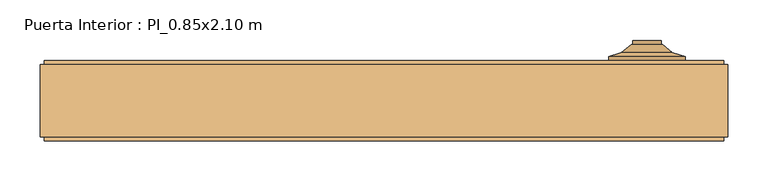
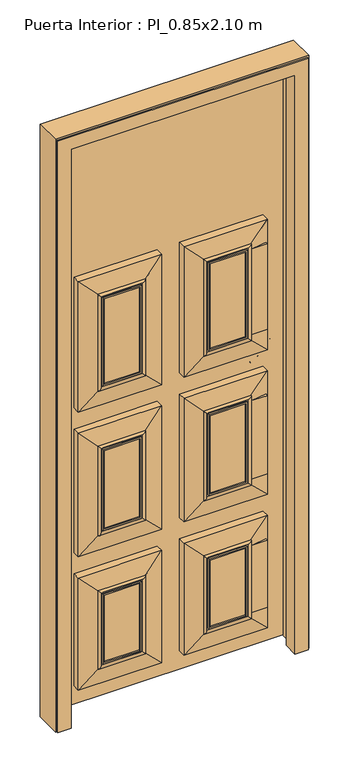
"""IFC4 building model written with IfcOpenShell, lengths in millimetres: door geometry, Puerta Interior : PI_0.85x2.10 m."""

from ifc_helpers import new_model, si_unit, point, frame, frame_2d, origin, place, context, project, spatial, polyline, circle_curve, ellipse_curve, trimmed, segment, composite_curve, outline, extrude, faceted_brep, source, transform, mapped, element, save
from ifc_brep_helpers import plane_surface, cylinder_surface, revolved_surface, advanced_brep


def puerta_interior_pi_0_85x2_10_m_2af04781(model_context):
    return source(origin(), model_context, "Body", "SolidModel", [
        extrude(outline(composite_curve([segment(trimmed(circle_curve(frame_2d((1025.0174632, 325.28125)), 17.5), [point((1025.0174632, 307.78125))], [point((1025.0174632, 342.78125))], False, "CARTESIAN"), True, "CONTINUOUS"), segment(trimmed(circle_curve(frame_2d((1025.0174632, 325.28125)), 17.5), [point((1025.0174632, 342.78125))], [point((1025.0174632, 307.78125))], False, "CARTESIAN"), True, "CONTINUOUS")], self_intersect=False)), frame((0.0, 55.0, 0.0), z_axis=(0.0, 1.0, 0.0), x_axis=(0.0, 0.0, 1.0)), (0.0, 0.0, 1.0), 20.0),
        advanced_brep(
        [(372.78125, 55.0, 1025.0174632), (277.78125, 55.0, 1025.0174632), (277.78125, 50.0, 1025.0174632), (372.78125, 50.0, 1025.0174632), (356.78125, 60.0, 1025.0174632), (293.78125, 60.0, 1025.0174632), (344.9828812, 70.0, 1025.0174632), (305.5796188, 70.0, 1025.0174632), (343.1741787, 70.0, 1025.0174632), (307.3883213, 70.0, 1025.0174632), (343.1741787, 55.0, 1025.0174632), (307.3883213, 55.0, 1025.0174632), (325.28125, 55.0, 1025.0174632), (325.28125, 50.0, 1025.0174632)],
        [
            (0, 1, circle_curve(frame((325.28125, 55.0, 1025.0174632), z_axis=(0.0, -1.0, 0.0), x_axis=(-1.0, 0.0, 0.0)), 47.5)),
            (1, 2),
            (2, 3, circle_curve(frame((325.28125, 50.0, 1025.0174632), z_axis=(0.0, 1.0, 0.0), x_axis=(-1.0, 0.0, 0.0)), 47.5)),
            (3, 0),
            (1, 0, circle_curve(frame((325.28125, 55.0, 1025.0174632), z_axis=(0.0, -1.0, 0.0), x_axis=(-1.0, 0.0, 0.0)), 47.5)),
            (3, 2, circle_curve(frame((325.28125, 50.0, 1025.0174632), z_axis=(0.0, 1.0, 0.0), x_axis=(-1.0, 0.0, 0.0)), 47.5)),
            (4, 5, circle_curve(frame((325.28125, 60.0, 1025.0174632), z_axis=(0.0, -1.0, 0.0), x_axis=(-1.0, 0.0, 0.0)), 31.5)),
            (5, 1),
            (0, 4),
            (5, 4, circle_curve(frame((325.28125, 60.0, 1025.0174632), z_axis=(0.0, -1.0, 0.0), x_axis=(-1.0, 0.0, 0.0)), 31.5)),
            (6, 7, circle_curve(frame((325.28125, 70.0, 1025.0174632), z_axis=(0.0, -1.0, 0.0), x_axis=(-1.0, 0.0, 0.0)), 19.7016312)),
            (7, 5),
            (4, 6),
            (7, 6, circle_curve(frame((325.28125, 70.0, 1025.0174632), z_axis=(0.0, -1.0, 0.0), x_axis=(-1.0, 0.0, 0.0)), 19.7016312)),
            (8, 9, circle_curve(frame((325.28125, 70.0, 1025.0174632), z_axis=(0.0, -1.0, 0.0), x_axis=(-1.0, 0.0, 0.0)), 17.8929287)),
            (9, 7),
            (6, 8),
            (9, 8, circle_curve(frame((325.28125, 70.0, 1025.0174632), z_axis=(0.0, -1.0, 0.0), x_axis=(-1.0, 0.0, 0.0)), 17.8929287)),
            (10, 11, circle_curve(frame((325.28125, 55.0, 1025.0174632), z_axis=(0.0, -1.0, 0.0), x_axis=(-1.0, 0.0, 0.0)), 17.8929287)),
            (11, 9),
            (8, 10),
            (11, 10, circle_curve(frame((325.28125, 55.0, 1025.0174632), z_axis=(0.0, -1.0, 0.0), x_axis=(-1.0, 0.0, 0.0)), 17.8929287)),
            (12, 11),
            (10, 12),
            (2, 13),
            (13, 3),
        ],
        [
            cylinder_surface(frame((325.28125, 50.0, 1025.0174632), z_axis=(0.0, 1.0, 0.0), x_axis=(-1.0, 0.0, 0.0)), 47.5),
            revolved_surface(polyline([(277.78125, 55.0, 1025.0174632), (293.78125, 60.0, 1025.0174632)]), (325.28125, 50.0, 1025.0174632), (0.0, 1.0, 0.0)),
            revolved_surface(polyline([(293.78125, 60.0, 1025.0174632), (305.5796188, 70.0, 1025.0174632)]), (325.28125, 50.0, 1025.0174632), (0.0, 1.0, 0.0)),
            plane_surface(frame((325.28125, 70.0, 1025.0174632), z_axis=(0.0, 1.0, 0.0), x_axis=(-1.0, 0.0, 0.0))),
            revolved_surface(polyline([(307.38832130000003, 70.0, 1025.0174632), (307.38832130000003, 55.0, 1025.0174632)]), (325.28125, 50.0, 1025.0174632), (0.0, 1.0, 0.0)),
            plane_surface(frame((325.28125, 55.0, 1025.0174632), z_axis=(0.0, 1.0, 0.0), x_axis=(-1.0, 0.0, 0.0))),
            plane_surface(frame((325.28125, 50.0, 1025.0174632), z_axis=(0.0, -1.0, 0.0), x_axis=(-1.0, 0.0, 0.0))),
        ],
        [
            (0, [[1, 2, 3, 4]]),
            (0, [[5, -4, 6, -2]]),
            (1, [[7, 8, -1, 9]]),
            (1, [[10, -9, -5, -8]]),
            (2, [[11, 12, -7, 13]]),
            (2, [[14, -13, -10, -12]]),
            (3, [[15, 16, -11, 17]]),
            (3, [[18, -17, -14, -16]]),
            (4, [[19, 20, -15, 21]]),
            (4, [[22, -21, -18, -20]]),
            (5, [[23, -19, 24]]),
            (5, [[-24, -22, -23]]),
            (6, [[-3, 25, 26]]),
            (6, [[-6, -26, -25]]),
        ],
    ),
        faceted_brep([(425.0, 45.0, 0.0), (425.0, -45.0, 0.0), (420.0, -45.0, 0.0), (420.0, -50.0, 0.0), (375.0, -50.0, 0.0), (375.0, 0.0, 0.0), (392.0, 0.0, 0.0), (392.0, 50.0, 0.0), (420.0, 50.0, 0.0), (420.0, 45.0, 0.0), (425.0, 45.0, 2100.0), (425.0, -45.0, 2100.0), (-425.0, -45.0, 2100.0), (-425.0, -45.0, 0.0), (-420.0, -45.0, 0.0), (-420.0, -45.0, 2095.0), (420.0, -45.0, 2095.0), (420.0, -50.0, 2095.0), (-420.0, -50.0, 2095.0), (-420.0, -50.0, 0.0), (-375.0, -50.0, 0.0), (-375.0, -50.0, 2050.0), (375.0, -50.0, 2050.0), (375.0, 0.0, 2050.0), (-375.0, 0.0, 2050.0), (-375.0, 0.0, 0.0), (-392.0, 0.0, 0.0), (-392.0, 0.0, 2067.0), (392.0, 0.0, 2067.0), (392.0, 50.0, 2067.0), (-392.0, 50.0, 2067.0), (-392.0, 50.0, 1950.0), (-394.0, 50.0, 1950.0), (-394.0, 50.0, 1850.0), (-392.0, 50.0, 1850.0), (-392.0, 50.0, 1075.0174632), (-394.0, 50.0, 1075.0174632), (-394.0, 50.0, 975.0174632), (-392.0, 50.0, 975.0174632), (-392.0, 50.0, 200.0349265), (-394.0, 50.0, 200.0349265), (-394.0, 50.0, 100.0349265), (-392.0, 50.0, 100.0349265), (-392.0, 50.0, 0.0), (-420.0, 50.0, 0.0), (-420.0, 50.0, 2095.0), (420.0, 50.0, 2095.0), (420.0, 45.0, 2095.0), (-420.0, 45.0, 2095.0), (-420.0, 45.0, 0.0), (-425.0, 45.0, 0.0), (-425.0, 45.0, 2100.0), (-392.0, 7.5, 100.0349265), (-392.0, 7.5, 200.0349265), (-392.0, 7.5, 975.0174632), (-392.0, 7.5, 1075.0174632), (-392.0, 7.5, 1850.0), (-392.0, 7.5, 1950.0), (-394.0, 7.5, 100.0349265), (-394.0, 7.5, 200.0349265), (-394.0, 7.5, 975.0174632), (-394.0, 7.5, 1075.0174632), (-394.0, 7.5, 1950.0), (-394.0, 7.5, 1850.0)], [[[0, 1, 2, 3, 4, 5, 6, 7, 8, 9]], [[1, 0, 10, 11]], [[2, 1, 11, 12, 13, 14, 15, 16]], [[3, 2, 16, 17]], [[4, 3, 17, 18, 19, 20, 21, 22]], [[5, 4, 22, 23]], [[6, 5, 23, 24, 25, 26, 27, 28]], [[7, 6, 28, 29]], [[8, 7, 29, 30, 31, 32, 33, 34, 35, 36, 37, 38, 39, 40, 41, 42, 43, 44, 45, 46]], [[9, 8, 46, 47]], [[0, 9, 47, 48, 49, 50, 51, 10]], [[13, 50, 49, 44, 43, 26, 25, 20, 19, 14]], [[12, 51, 50, 13]], [[48, 45, 44, 49]], [[30, 27, 26, 43, 42, 52, 53, 39, 38, 54, 55, 35, 34, 56, 57, 31]], [[24, 21, 20, 25]], [[18, 15, 14, 19]], [[58, 52, 42, 41]], [[58, 59, 53, 52]], [[53, 59, 40, 39]], [[60, 54, 38, 37]], [[60, 61, 55, 54]], [[55, 61, 36, 35]], [[61, 60, 37, 36]], [[59, 58, 41, 40]], [[11, 10, 51, 12]], [[23, 22, 21, 24]], [[29, 28, 27, 30]], [[17, 16, 15, 18]], [[47, 46, 45, 48]], [[62, 63, 33, 32]], [[62, 32, 31, 57]], [[63, 62, 57, 56]], [[33, 63, 56, 34]]]),
        extrude(outline(polyline([(392.0, 48.203125), (-392.0, 48.203125), (-392.0, 50.0), (392.0, 50.0), (392.0, 48.203125)])), frame((0.0, 0.0, 2.5), z_axis=(0.0, 0.0, 1.0), x_axis=(1.0, 0.0, 0.0)), (0.0, 0.0, 1.0), 2064.5),
        advanced_brep(
        [(117.5, 0.0, 395.0087316), (117.5, 0.0, 157.5), (237.0, 0.0, 157.5), (237.0, 0.0, 395.0087316), (247.0, 0.0, 405.0087316), (107.5, 0.0, 405.0087316), (107.5, 0.0, 147.5), (247.0, 0.0, 147.5), (242.0, 0.0, 152.5), (112.5, 0.0, 152.5), (112.5, 0.0, 400.0087316), (242.0, 0.0, 400.0087316), (312.0, 0.0, 157.5), (312.0, 0.0, 395.0087316), (257.0, 0.0, 395.0087316), (257.0, 0.0, 157.5), (37.5, 35.0, 77.5), (37.5, 35.0, 475.0087316), (317.0, 35.0, 475.0087316), (317.0, 35.0, 77.5), (117.5, -5.0, 395.0087316), (117.5, -5.0, 157.5), (37.5, 10.0, 475.0087316), (37.5, 10.0, 77.5), (97.5, 0.0, 137.5), (97.5, 0.0, 415.0087316), (112.5, -5.0, 400.0087316), (112.5, -5.0, 152.5), (237.0, -5.0, 157.5), (317.0, 10.0, 77.5), (257.0, 0.0, 137.5), (242.0, -5.0, 152.5), (237.0, -5.0, 395.0087316), (317.0, 10.0, 475.0087316), (257.0, 0.0, 415.0087316), (312.0, 9.1666667, 395.0087316), (312.0, 9.1666667, 157.5), (242.0, -5.0, 400.0087316)],
        [
            (0, 1),
            (1, 2),
            (2, 3),
            (3, 0),
            (4, 5),
            (5, 6),
            (6, 7),
            (7, 4),
            (8, 9),
            (9, 10),
            (10, 11),
            (11, 8),
            (12, 13),
            (13, 14),
            (14, 15),
            (15, 12),
            (16, 17),
            (17, 18),
            (18, 19),
            (19, 16),
            (20, 21),
            (21, 1),
            (0, 20),
            (22, 17),
            (16, 23),
            (23, 22),
            (23, 24),
            (24, 25),
            (25, 22),
            (24, 6, ellipse_curve(frame((102.5, 0.0, 142.5), z_axis=(-0.7071067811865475, 0.0, 0.7071067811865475), x_axis=(0.7071067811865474, 0.0, 0.7071067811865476)), 7.0710678, 5.0)),
            (5, 25, ellipse_curve(frame((102.5, 0.0, 410.0087316), z_axis=(-0.7071067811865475, 0.0, -0.7071067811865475), x_axis=(-0.7071067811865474, 0.0, 0.7071067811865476)), 7.0710678, 5.0)),
            (26, 10),
            (9, 27),
            (27, 26),
            (21, 28),
            (28, 2),
            (19, 29),
            (29, 23),
            (29, 30),
            (30, 24),
            (30, 7, ellipse_curve(frame((252.0, 0.0, 142.5), z_axis=(-0.7071067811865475, 0.0, -0.7071067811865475), x_axis=(-0.7071067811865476, 0.0, 0.7071067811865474)), 7.0710678, 5.0)),
            (8, 31),
            (31, 27),
            (28, 32),
            (32, 3),
            (18, 33),
            (33, 29),
            (33, 34),
            (34, 14),
            (14, 35),
            (35, 36),
            (36, 15),
            (15, 30),
            (34, 4, ellipse_curve(frame((252.0, 0.0, 410.0087316), z_axis=(0.7071067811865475, 0.0, -0.7071067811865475), x_axis=(-0.7071067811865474, 0.0, -0.7071067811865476)), 7.0710678, 5.0)),
            (11, 37),
            (37, 31),
            (32, 20),
            (22, 33),
            (25, 34),
            (26, 37),
            (36, 12),
            (35, 13),
        ],
        [
            plane_surface(frame((117.5, 0.0, 395.0087316), z_axis=(0.0, -1.0, 0.0), x_axis=(0.0, 0.0, -1.0))),
            plane_surface(frame((117.5, 35.0, 395.0087316), z_axis=(0.0, 1.0, 0.0), x_axis=(0.0, 0.0, 1.0))),
            plane_surface(frame((117.5, -5.0, 395.0087316), z_axis=(1.0, 0.0, 0.0), x_axis=(0.0, 0.0, -1.0))),
            plane_surface(frame((37.5, 35.0, 475.0087316), z_axis=(-1.0, 0.0, 0.0), x_axis=(0.0, 0.0, -1.0))),
            plane_surface(frame((37.5, 10.0, 475.0087316), z_axis=(-0.1643989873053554, -0.9863939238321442, 0.0), x_axis=(0.0, 0.0, -1.0))),
            cylinder_surface(frame((102.5, 0.0, 475.0087316), z_axis=(0.0, 0.0, 1.0), x_axis=(0.0, 1.0, 0.0)), 5.0),
            plane_surface(frame((112.5, 0.0, 400.0087316), z_axis=(-1.0, 0.0, 0.0), x_axis=(0.0, 0.0, -1.0))),
            plane_surface(frame((117.5, -5.0, 157.5), z_axis=(0.0, 0.0, 1.0), x_axis=(1.0, 0.0, 0.0))),
            plane_surface(frame((37.5, 35.0, 77.5), z_axis=(0.0, 0.0, -1.0), x_axis=(1.0, 0.0, 0.0))),
            plane_surface(frame((37.5, 10.0, 77.5), z_axis=(0.0, -0.9863939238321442, -0.1643989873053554), x_axis=(1.0, 0.0, 0.0))),
            cylinder_surface(frame((37.5, 0.0, 142.5), z_axis=(-1.0, 0.0, 0.0), x_axis=(0.0, 1.0, 0.0)), 5.0),
            plane_surface(frame((112.5, 0.0, 152.5), z_axis=(0.0, 0.0, -1.0), x_axis=(1.0, 0.0, 0.0))),
            plane_surface(frame((237.0, -5.0, 157.5), z_axis=(-1.0, 0.0, 0.0), x_axis=(0.0, 0.0, 1.0))),
            plane_surface(frame((317.0, 35.0, 77.5), z_axis=(1.0, 0.0, 0.0), x_axis=(0.0, 0.0, 1.0))),
            plane_surface(frame((317.0, 10.0, 77.5), z_axis=(0.1643989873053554, -0.9863939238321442, 0.0), x_axis=(0.0, 0.0, 1.0))),
            cylinder_surface(frame((252.0, 0.0, 77.5), z_axis=(0.0, 0.0, -1.0), x_axis=(0.0, 1.0, 0.0)), 5.0),
            plane_surface(frame((242.0, 0.0, 152.5), z_axis=(1.0, 0.0, 0.0), x_axis=(0.0, 0.0, 1.0))),
            plane_surface(frame((237.0, -5.0, 395.0087316), z_axis=(0.0, 0.0, -1.0), x_axis=(-1.0, 0.0, 0.0))),
            plane_surface(frame((317.0, 35.0, 475.0087316), z_axis=(0.0, 0.0, 1.0), x_axis=(-1.0, 0.0, 0.0))),
            plane_surface(frame((317.0, 10.0, 475.0087316), z_axis=(0.0, -0.9863939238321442, 0.1643989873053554), x_axis=(-1.0, 0.0, 0.0))),
            cylinder_surface(frame((317.0, 0.0, 410.0087316), z_axis=(1.0, 0.0, 0.0), x_axis=(0.0, 1.0, 0.0)), 5.0),
            plane_surface(frame((242.0, 0.0, 400.0087316), z_axis=(0.0, 0.0, 1.0), x_axis=(-1.0, 0.0, 0.0))),
            plane_surface(frame((242.0, -5.0, 400.0087316), z_axis=(0.0, -1.0, 0.0), x_axis=(-1.0, 0.0, 0.0))),
            plane_surface(frame((117.5, 0.0, 157.5), z_axis=(0.0, 0.0, -1.0), x_axis=(0.0, 1.0, 0.0))),
            plane_surface(frame((312.0, 0.0, 157.5), z_axis=(1.0, 0.0, 0.0), x_axis=(0.0, 1.0, 0.0))),
            plane_surface(frame((312.0, 0.0, 395.0087316), z_axis=(0.0, 0.0, 1.0), x_axis=(0.0, 1.0, 0.0))),
        ],
        [
            (0, [[1, 2, 3, 4]]),
            (0, [[5, 6, 7, 8], [9, 10, 11, 12]]),
            (0, [[13, 14, 15, 16]]),
            (1, [[17, 18, 19, 20]]),
            (2, [[21, 22, -1, 23]]),
            (3, [[24, -17, 25, 26]]),
            (4, [[-26, 27, 28, 29]]),
            (5, [[-28, 30, -6, 31]]),
            (6, [[32, -10, 33, 34]]),
            (7, [[35, 36, -2, -22]]),
            (8, [[-25, -20, 37, 38]]),
            (9, [[-27, -38, 39, 40]]),
            (10, [[-30, -40, 41, -7]]),
            (11, [[-33, -9, 42, 43]]),
            (12, [[44, 45, -3, -36]]),
            (13, [[-37, -19, 46, 47]]),
            (14, [[-39, -47, 48, 49, 50, 51, 52, 53]]),
            (15, [[-8, -41, -53, -15, -49, 54]]),
            (16, [[-42, -12, 55, 56]]),
            (17, [[57, -23, -4, -45]]),
            (18, [[-24, 58, -46, -18]]),
            (19, [[-29, 59, -48, -58]]),
            (20, [[-31, -5, -54, -59]]),
            (21, [[-32, 60, -55, -11]]),
            (22, [[-34, -43, -56, -60], [-21, -57, -44, -35]]),
            (23, [[-16, -52, 61]]),
            (24, [[-13, -61, -51, 62]]),
            (25, [[-14, -62, -50]]),
        ],
    ),
        advanced_brep(
        [(-237.0, 0.0, 395.0087316), (-237.0, 0.0, 157.5), (-117.5, 0.0, 157.5), (-117.5, 0.0, 395.0087316), (-317.0, 35.0, 77.5), (-317.0, 35.0, 475.0087316), (-37.5, 35.0, 475.0087316), (-37.5, 35.0, 77.5), (-237.0, -5.0, 395.0087316), (-237.0, -5.0, 157.5), (-317.0, 10.0, 475.0087316), (-317.0, 10.0, 77.5), (-257.0, 0.0, 137.5), (-257.0, 0.0, 415.0087316), (-247.0, 0.0, 147.5), (-247.0, 0.0, 405.0087316), (-242.0, -5.0, 400.0087316), (-242.0, 0.0, 400.0087316), (-242.0, 0.0, 152.5), (-242.0, -5.0, 152.5), (-117.5, -5.0, 157.5), (-37.5, 10.0, 77.5), (-97.5, 0.0, 137.5), (-107.5, 0.0, 147.5), (-112.5, 0.0, 152.5), (-112.5, -5.0, 152.5), (-117.5, -5.0, 395.0087316), (-37.5, 10.0, 475.0087316), (-97.5, 0.0, 415.0087316), (-107.5, 0.0, 405.0087316), (-112.5, 0.0, 400.0087316), (-112.5, -5.0, 400.0087316)],
        [
            (0, 1),
            (1, 2),
            (2, 3),
            (3, 0),
            (4, 5),
            (5, 6),
            (6, 7),
            (7, 4),
            (8, 9),
            (9, 1),
            (0, 8),
            (10, 5),
            (4, 11),
            (11, 10),
            (11, 12),
            (12, 13),
            (13, 10),
            (12, 14, ellipse_curve(frame((-252.0, 0.0, 142.5), z_axis=(-0.7071067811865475, 0.0, 0.7071067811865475), x_axis=(0.7071067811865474, 0.0, 0.7071067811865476)), 7.0710678, 5.0)),
            (14, 15),
            (15, 13, ellipse_curve(frame((-252.0, 0.0, 410.0087316), z_axis=(-0.7071067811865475, 0.0, -0.7071067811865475), x_axis=(-0.7071067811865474, 0.0, 0.7071067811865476)), 7.0710678, 5.0)),
            (16, 17),
            (17, 18),
            (18, 19),
            (19, 16),
            (9, 20),
            (20, 2),
            (7, 21),
            (21, 11),
            (21, 22),
            (22, 12),
            (22, 23, ellipse_curve(frame((-102.5, 0.0, 142.5), z_axis=(-0.7071067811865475, 0.0, -0.7071067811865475), x_axis=(-0.7071067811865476, 0.0, 0.7071067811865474)), 7.0710678, 5.0)),
            (23, 14),
            (18, 24),
            (24, 25),
            (25, 19),
            (20, 26),
            (26, 3),
            (6, 27),
            (27, 21),
            (27, 28),
            (28, 22),
            (28, 29, ellipse_curve(frame((-102.5, 0.0, 410.0087316), z_axis=(0.7071067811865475, 0.0, -0.7071067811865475), x_axis=(-0.7071067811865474, 0.0, -0.7071067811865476)), 7.0710678, 5.0)),
            (29, 23),
            (24, 30),
            (30, 31),
            (31, 25),
            (26, 8),
            (10, 27),
            (13, 28),
            (15, 29),
            (17, 30),
            (16, 31),
        ],
        [
            plane_surface(frame((-237.0, 0.0, 395.0087316), z_axis=(0.0, -1.0, 0.0), x_axis=(0.0, 0.0, -1.0))),
            plane_surface(frame((-237.0, 35.0, 395.0087316), z_axis=(0.0, 1.0, 0.0), x_axis=(0.0, 0.0, 1.0))),
            plane_surface(frame((-237.0, -5.0, 395.0087316), z_axis=(1.0, 0.0, 0.0), x_axis=(0.0, 0.0, -1.0))),
            plane_surface(frame((-317.0, 35.0, 475.0087316), z_axis=(-1.0, 0.0, 0.0), x_axis=(0.0, 0.0, -1.0))),
            plane_surface(frame((-317.0, 10.0, 475.0087316), z_axis=(-0.1643989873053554, -0.9863939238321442, 0.0), x_axis=(0.0, 0.0, -1.0))),
            cylinder_surface(frame((-252.0, 0.0, 475.0087316), z_axis=(0.0, 0.0, 1.0), x_axis=(0.0, 1.0, 0.0)), 5.0),
            plane_surface(frame((-242.0, 0.0, 400.0087316), z_axis=(-1.0, 0.0, 0.0), x_axis=(0.0, 0.0, -1.0))),
            plane_surface(frame((-237.0, -5.0, 157.5), z_axis=(0.0, 0.0, 1.0), x_axis=(1.0, 0.0, 0.0))),
            plane_surface(frame((-317.0, 35.0, 77.5), z_axis=(0.0, 0.0, -1.0), x_axis=(1.0, 0.0, 0.0))),
            plane_surface(frame((-317.0, 10.0, 77.5), z_axis=(0.0, -0.9863939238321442, -0.1643989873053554), x_axis=(1.0, 0.0, 0.0))),
            cylinder_surface(frame((-317.0, 0.0, 142.5), z_axis=(-1.0, 0.0, 0.0), x_axis=(0.0, 1.0, 0.0)), 5.0),
            plane_surface(frame((-242.0, 0.0, 152.5), z_axis=(0.0, 0.0, -1.0), x_axis=(1.0, 0.0, 0.0))),
            plane_surface(frame((-117.5, -5.0, 157.5), z_axis=(-1.0, 0.0, 0.0), x_axis=(0.0, 0.0, 1.0))),
            plane_surface(frame((-37.5, 35.0, 77.5), z_axis=(1.0, 0.0, 0.0), x_axis=(0.0, 0.0, 1.0))),
            plane_surface(frame((-37.5, 10.0, 77.5), z_axis=(0.1643989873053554, -0.9863939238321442, 0.0), x_axis=(0.0, 0.0, 1.0))),
            cylinder_surface(frame((-102.5, 0.0, 77.5), z_axis=(0.0, 0.0, -1.0), x_axis=(0.0, 1.0, 0.0)), 5.0),
            plane_surface(frame((-112.5, 0.0, 152.5), z_axis=(1.0, 0.0, 0.0), x_axis=(0.0, 0.0, 1.0))),
            plane_surface(frame((-117.5, -5.0, 395.0087316), z_axis=(0.0, 0.0, -1.0), x_axis=(-1.0, 0.0, 0.0))),
            plane_surface(frame((-37.5, 35.0, 475.0087316), z_axis=(0.0, 0.0, 1.0), x_axis=(-1.0, 0.0, 0.0))),
            plane_surface(frame((-37.5, 10.0, 475.0087316), z_axis=(0.0, -0.9863939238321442, 0.1643989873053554), x_axis=(-1.0, 0.0, 0.0))),
            cylinder_surface(frame((-37.5, 0.0, 410.0087316), z_axis=(1.0, 0.0, 0.0), x_axis=(0.0, 1.0, 0.0)), 5.0),
            plane_surface(frame((-107.5, 0.0, 405.0087316), z_axis=(0.0, -1.0, 0.0), x_axis=(-1.0, 0.0, 0.0))),
            plane_surface(frame((-112.5, 0.0, 400.0087316), z_axis=(0.0, 0.0, 1.0), x_axis=(-1.0, 0.0, 0.0))),
            plane_surface(frame((-112.5, -5.0, 400.0087316), z_axis=(0.0, -1.0, 0.0), x_axis=(-1.0, 0.0, 0.0))),
        ],
        [
            (0, [[1, 2, 3, 4]]),
            (1, [[5, 6, 7, 8]]),
            (2, [[9, 10, -1, 11]]),
            (3, [[12, -5, 13, 14]]),
            (4, [[-14, 15, 16, 17]]),
            (5, [[-16, 18, 19, 20]]),
            (6, [[21, 22, 23, 24]]),
            (7, [[25, 26, -2, -10]]),
            (8, [[-13, -8, 27, 28]]),
            (9, [[-15, -28, 29, 30]]),
            (10, [[-18, -30, 31, 32]]),
            (11, [[-23, 33, 34, 35]]),
            (12, [[36, 37, -3, -26]]),
            (13, [[-27, -7, 38, 39]]),
            (14, [[-29, -39, 40, 41]]),
            (15, [[-31, -41, 42, 43]]),
            (16, [[-34, 44, 45, 46]]),
            (17, [[47, -11, -4, -37]]),
            (18, [[-12, 48, -38, -6]]),
            (19, [[-17, 49, -40, -48]]),
            (20, [[-20, 50, -42, -49]]),
            (21, [[-19, -32, -43, -50], [-22, 51, -44, -33]]),
            (22, [[-21, 52, -45, -51]]),
            (23, [[-24, -35, -46, -52], [-9, -47, -36, -25]]),
        ],
    ),
        advanced_brep(
        [(-237.0, 0.0, 907.5174632), (-237.0, 0.0, 630.0087316), (-117.5, 0.0, 630.0087316), (-117.5, 0.0, 907.5174632), (-317.0, 35.0, 550.0087316), (-317.0, 35.0, 987.5174632), (-37.5, 35.0, 987.5174632), (-37.5, 35.0, 550.0087316), (-237.0, -5.0, 907.5174632), (-237.0, -5.0, 630.0087316), (-317.0, 10.0, 987.5174632), (-317.0, 10.0, 550.0087316), (-257.0, 0.0, 610.0087316), (-257.0, 0.0, 927.5174632), (-247.0, 0.0, 620.0087316), (-247.0, 0.0, 917.5174632), (-242.0, -5.0, 912.5174632), (-242.0, 0.0, 912.5174632), (-242.0, 0.0, 625.0087316), (-242.0, -5.0, 625.0087316), (-117.5, -5.0, 630.0087316), (-37.5, 10.0, 550.0087316), (-97.5, 0.0, 610.0087316), (-107.5, 0.0, 620.0087316), (-112.5, 0.0, 625.0087316), (-112.5, -5.0, 625.0087316), (-117.5, -5.0, 907.5174632), (-37.5, 10.0, 987.5174632), (-97.5, 0.0, 927.5174632), (-107.5, 0.0, 917.5174632), (-112.5, 0.0, 912.5174632), (-112.5, -5.0, 912.5174632)],
        [
            (0, 1),
            (1, 2),
            (2, 3),
            (3, 0),
            (4, 5),
            (5, 6),
            (6, 7),
            (7, 4),
            (8, 9),
            (9, 1),
            (0, 8),
            (10, 5),
            (4, 11),
            (11, 10),
            (11, 12),
            (12, 13),
            (13, 10),
            (12, 14, ellipse_curve(frame((-252.0, 0.0, 615.0087316), z_axis=(-0.7071067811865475, 0.0, 0.7071067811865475), x_axis=(0.7071067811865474, 0.0, 0.7071067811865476)), 7.0710678, 5.0)),
            (14, 15),
            (15, 13, ellipse_curve(frame((-252.0, 0.0, 922.5174632), z_axis=(-0.7071067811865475, 0.0, -0.7071067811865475), x_axis=(-0.7071067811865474, 0.0, 0.7071067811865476)), 7.0710678, 5.0)),
            (16, 17),
            (17, 18),
            (18, 19),
            (19, 16),
            (9, 20),
            (20, 2),
            (7, 21),
            (21, 11),
            (21, 22),
            (22, 12),
            (22, 23, ellipse_curve(frame((-102.5, 0.0, 615.0087316), z_axis=(-0.7071067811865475, 0.0, -0.7071067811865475), x_axis=(-0.7071067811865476, 0.0, 0.7071067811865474)), 7.0710678, 5.0)),
            (23, 14),
            (18, 24),
            (24, 25),
            (25, 19),
            (20, 26),
            (26, 3),
            (6, 27),
            (27, 21),
            (27, 28),
            (28, 22),
            (28, 29, ellipse_curve(frame((-102.5, 0.0, 922.5174632), z_axis=(0.7071067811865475, 0.0, -0.7071067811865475), x_axis=(-0.7071067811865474, 0.0, -0.7071067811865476)), 7.0710678, 5.0)),
            (29, 23),
            (24, 30),
            (30, 31),
            (31, 25),
            (26, 8),
            (10, 27),
            (13, 28),
            (15, 29),
            (17, 30),
            (16, 31),
        ],
        [
            plane_surface(frame((-237.0, 0.0, 907.5174632), z_axis=(0.0, -1.0, 0.0), x_axis=(0.0, 0.0, -1.0))),
            plane_surface(frame((-237.0, 35.0, 907.5174632), z_axis=(0.0, 1.0, 0.0), x_axis=(0.0, 0.0, 1.0))),
            plane_surface(frame((-237.0, -5.0, 907.5174632), z_axis=(1.0, 0.0, 0.0), x_axis=(0.0, 0.0, -1.0))),
            plane_surface(frame((-317.0, 35.0, 987.5174632), z_axis=(-1.0, 0.0, 0.0), x_axis=(0.0, 0.0, -1.0))),
            plane_surface(frame((-317.0, 10.0, 987.5174632), z_axis=(-0.1643989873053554, -0.9863939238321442, 0.0), x_axis=(0.0, 0.0, -1.0))),
            cylinder_surface(frame((-252.0, 0.0, 987.5174632), z_axis=(0.0, 0.0, 1.0), x_axis=(0.0, 1.0, 0.0)), 5.0),
            plane_surface(frame((-242.0, 0.0, 912.5174632), z_axis=(-1.0, 0.0, 0.0), x_axis=(0.0, 0.0, -1.0))),
            plane_surface(frame((-237.0, -5.0, 630.0087316), z_axis=(0.0, 0.0, 1.0), x_axis=(1.0, 0.0, 0.0))),
            plane_surface(frame((-317.0, 35.0, 550.0087316), z_axis=(0.0, 0.0, -1.0), x_axis=(1.0, 0.0, 0.0))),
            plane_surface(frame((-317.0, 10.0, 550.0087316), z_axis=(0.0, -0.9863939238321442, -0.1643989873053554), x_axis=(1.0, 0.0, 0.0))),
            cylinder_surface(frame((-317.0, 0.0, 615.0087316), z_axis=(-1.0, 0.0, 0.0), x_axis=(0.0, 1.0, 0.0)), 5.0),
            plane_surface(frame((-242.0, 0.0, 625.0087316), z_axis=(0.0, 0.0, -1.0), x_axis=(1.0, 0.0, 0.0))),
            plane_surface(frame((-117.5, -5.0, 630.0087316), z_axis=(-1.0, 0.0, 0.0), x_axis=(0.0, 0.0, 1.0))),
            plane_surface(frame((-37.5, 35.0, 550.0087316), z_axis=(1.0, 0.0, 0.0), x_axis=(0.0, 0.0, 1.0))),
            plane_surface(frame((-37.5, 10.0, 550.0087316), z_axis=(0.1643989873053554, -0.9863939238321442, 0.0), x_axis=(0.0, 0.0, 1.0))),
            cylinder_surface(frame((-102.5, 0.0, 550.0087316), z_axis=(0.0, 0.0, -1.0), x_axis=(0.0, 1.0, 0.0)), 5.0),
            plane_surface(frame((-112.5, 0.0, 625.0087316), z_axis=(1.0, 0.0, 0.0), x_axis=(0.0, 0.0, 1.0))),
            plane_surface(frame((-117.5, -5.0, 907.5174632), z_axis=(0.0, 0.0, -1.0), x_axis=(-1.0, 0.0, 0.0))),
            plane_surface(frame((-37.5, 35.0, 987.5174632), z_axis=(0.0, 0.0, 1.0), x_axis=(-1.0, 0.0, 0.0))),
            plane_surface(frame((-37.5, 10.0, 987.5174632), z_axis=(0.0, -0.9863939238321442, 0.1643989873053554), x_axis=(-1.0, 0.0, 0.0))),
            cylinder_surface(frame((-37.5, 0.0, 922.5174632), z_axis=(1.0, 0.0, 0.0), x_axis=(0.0, 1.0, 0.0)), 5.0),
            plane_surface(frame((-107.5, 0.0, 917.5174632), z_axis=(0.0, -1.0, 0.0), x_axis=(-1.0, 0.0, 0.0))),
            plane_surface(frame((-112.5, 0.0, 912.5174632), z_axis=(0.0, 0.0, 1.0), x_axis=(-1.0, 0.0, 0.0))),
            plane_surface(frame((-112.5, -5.0, 912.5174632), z_axis=(0.0, -1.0, 0.0), x_axis=(-1.0, 0.0, 0.0))),
        ],
        [
            (0, [[1, 2, 3, 4]]),
            (1, [[5, 6, 7, 8]]),
            (2, [[9, 10, -1, 11]]),
            (3, [[12, -5, 13, 14]]),
            (4, [[-14, 15, 16, 17]]),
            (5, [[-16, 18, 19, 20]]),
            (6, [[21, 22, 23, 24]]),
            (7, [[25, 26, -2, -10]]),
            (8, [[-13, -8, 27, 28]]),
            (9, [[-15, -28, 29, 30]]),
            (10, [[-18, -30, 31, 32]]),
            (11, [[-23, 33, 34, 35]]),
            (12, [[36, 37, -3, -26]]),
            (13, [[-27, -7, 38, 39]]),
            (14, [[-29, -39, 40, 41]]),
            (15, [[-31, -41, 42, 43]]),
            (16, [[-34, 44, 45, 46]]),
            (17, [[47, -11, -4, -37]]),
            (18, [[-12, 48, -38, -6]]),
            (19, [[-17, 49, -40, -48]]),
            (20, [[-20, 50, -42, -49]]),
            (21, [[-19, -32, -43, -50], [-22, 51, -44, -33]]),
            (22, [[-21, 52, -45, -51]]),
            (23, [[-24, -35, -46, -52], [-9, -47, -36, -25]]),
        ],
    ),
        advanced_brep(
        [(117.5, 0.0, 907.5174632), (117.5, 0.0, 630.0087316), (237.0, 0.0, 630.0087316), (237.0, 0.0, 907.5174632), (247.0, 0.0, 917.5174632), (107.5, 0.0, 917.5174632), (107.5, 0.0, 620.0087316), (247.0, 0.0, 620.0087316), (242.0, 0.0, 625.0087316), (112.5, 0.0, 625.0087316), (112.5, 0.0, 912.5174632), (242.0, 0.0, 912.5174632), (312.0, 0.0, 630.0087316), (312.0, 0.0, 907.5174632), (257.0, 0.0, 907.5174632), (257.0, 0.0, 630.0087316), (37.5, 35.0, 550.0087316), (37.5, 35.0, 987.5174632), (317.0, 35.0, 987.5174632), (317.0, 35.0, 550.0087316), (117.5, -5.0, 907.5174632), (117.5, -5.0, 630.0087316), (37.5, 10.0, 987.5174632), (37.5, 10.0, 550.0087316), (97.5, 0.0, 610.0087316), (97.5, 0.0, 927.5174632), (112.5, -5.0, 912.5174632), (112.5, -5.0, 625.0087316), (237.0, -5.0, 630.0087316), (317.0, 10.0, 550.0087316), (257.0, 0.0, 610.0087316), (242.0, -5.0, 625.0087316), (237.0, -5.0, 907.5174632), (317.0, 10.0, 987.5174632), (257.0, 0.0, 927.5174632), (312.0, 9.1666667, 907.5174632), (312.0, 9.1666667, 630.0087316), (242.0, -5.0, 912.5174632)],
        [
            (0, 1),
            (1, 2),
            (2, 3),
            (3, 0),
            (4, 5),
            (5, 6),
            (6, 7),
            (7, 4),
            (8, 9),
            (9, 10),
            (10, 11),
            (11, 8),
            (12, 13),
            (13, 14),
            (14, 15),
            (15, 12),
            (16, 17),
            (17, 18),
            (18, 19),
            (19, 16),
            (20, 21),
            (21, 1),
            (0, 20),
            (22, 17),
            (16, 23),
            (23, 22),
            (23, 24),
            (24, 25),
            (25, 22),
            (24, 6, ellipse_curve(frame((102.5, 0.0, 615.0087316), z_axis=(-0.7071067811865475, 0.0, 0.7071067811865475), x_axis=(0.7071067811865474, 0.0, 0.7071067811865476)), 7.0710678, 5.0)),
            (5, 25, ellipse_curve(frame((102.5, 0.0, 922.5174632), z_axis=(-0.7071067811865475, 0.0, -0.7071067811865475), x_axis=(-0.7071067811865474, 0.0, 0.7071067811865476)), 7.0710678, 5.0)),
            (26, 10),
            (9, 27),
            (27, 26),
            (21, 28),
            (28, 2),
            (19, 29),
            (29, 23),
            (29, 30),
            (30, 24),
            (30, 7, ellipse_curve(frame((252.0, 0.0, 615.0087316), z_axis=(-0.7071067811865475, 0.0, -0.7071067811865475), x_axis=(-0.7071067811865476, 0.0, 0.7071067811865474)), 7.0710678, 5.0)),
            (8, 31),
            (31, 27),
            (28, 32),
            (32, 3),
            (18, 33),
            (33, 29),
            (33, 34),
            (34, 14),
            (14, 35),
            (35, 36),
            (36, 15),
            (15, 30),
            (34, 4, ellipse_curve(frame((252.0, 0.0, 922.5174632), z_axis=(0.7071067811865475, 0.0, -0.7071067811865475), x_axis=(-0.7071067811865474, 0.0, -0.7071067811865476)), 7.0710678, 5.0)),
            (11, 37),
            (37, 31),
            (32, 20),
            (22, 33),
            (25, 34),
            (26, 37),
            (36, 12),
            (35, 13),
        ],
        [
            plane_surface(frame((117.5, 0.0, 907.5174632), z_axis=(0.0, -1.0, 0.0), x_axis=(0.0, 0.0, -1.0))),
            plane_surface(frame((117.5, 35.0, 907.5174632), z_axis=(0.0, 1.0, 0.0), x_axis=(0.0, 0.0, 1.0))),
            plane_surface(frame((117.5, -5.0, 907.5174632), z_axis=(1.0, 0.0, 0.0), x_axis=(0.0, 0.0, -1.0))),
            plane_surface(frame((37.5, 35.0, 987.5174632), z_axis=(-1.0, 0.0, 0.0), x_axis=(0.0, 0.0, -1.0))),
            plane_surface(frame((37.5, 10.0, 987.5174632), z_axis=(-0.1643989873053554, -0.9863939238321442, 0.0), x_axis=(0.0, 0.0, -1.0))),
            cylinder_surface(frame((102.5, 0.0, 987.5174632), z_axis=(0.0, 0.0, 1.0), x_axis=(0.0, 1.0, 0.0)), 5.0),
            plane_surface(frame((112.5, 0.0, 912.5174632), z_axis=(-1.0, 0.0, 0.0), x_axis=(0.0, 0.0, -1.0))),
            plane_surface(frame((117.5, -5.0, 630.0087316), z_axis=(0.0, 0.0, 1.0), x_axis=(1.0, 0.0, 0.0))),
            plane_surface(frame((37.5, 35.0, 550.0087316), z_axis=(0.0, 0.0, -1.0), x_axis=(1.0, 0.0, 0.0))),
            plane_surface(frame((37.5, 10.0, 550.0087316), z_axis=(0.0, -0.9863939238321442, -0.1643989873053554), x_axis=(1.0, 0.0, 0.0))),
            cylinder_surface(frame((37.5, 0.0, 615.0087316), z_axis=(-1.0, 0.0, 0.0), x_axis=(0.0, 1.0, 0.0)), 5.0),
            plane_surface(frame((112.5, 0.0, 625.0087316), z_axis=(0.0, 0.0, -1.0), x_axis=(1.0, 0.0, 0.0))),
            plane_surface(frame((237.0, -5.0, 630.0087316), z_axis=(-1.0, 0.0, 0.0), x_axis=(0.0, 0.0, 1.0))),
            plane_surface(frame((317.0, 35.0, 550.0087316), z_axis=(1.0, 0.0, 0.0), x_axis=(0.0, 0.0, 1.0))),
            plane_surface(frame((317.0, 10.0, 550.0087316), z_axis=(0.1643989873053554, -0.9863939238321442, 0.0), x_axis=(0.0, 0.0, 1.0))),
            cylinder_surface(frame((252.0, 0.0, 550.0087316), z_axis=(0.0, 0.0, -1.0), x_axis=(0.0, 1.0, 0.0)), 5.0),
            plane_surface(frame((242.0, 0.0, 625.0087316), z_axis=(1.0, 0.0, 0.0), x_axis=(0.0, 0.0, 1.0))),
            plane_surface(frame((237.0, -5.0, 907.5174632), z_axis=(0.0, 0.0, -1.0), x_axis=(-1.0, 0.0, 0.0))),
            plane_surface(frame((317.0, 35.0, 987.5174632), z_axis=(0.0, 0.0, 1.0), x_axis=(-1.0, 0.0, 0.0))),
            plane_surface(frame((317.0, 10.0, 987.5174632), z_axis=(0.0, -0.9863939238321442, 0.1643989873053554), x_axis=(-1.0, 0.0, 0.0))),
            cylinder_surface(frame((317.0, 0.0, 922.5174632), z_axis=(1.0, 0.0, 0.0), x_axis=(0.0, 1.0, 0.0)), 5.0),
            plane_surface(frame((242.0, 0.0, 912.5174632), z_axis=(0.0, 0.0, 1.0), x_axis=(-1.0, 0.0, 0.0))),
            plane_surface(frame((242.0, -5.0, 912.5174632), z_axis=(0.0, -1.0, 0.0), x_axis=(-1.0, 0.0, 0.0))),
            plane_surface(frame((117.5, 0.0, 630.0087316), z_axis=(0.0, 0.0, -1.0), x_axis=(0.0, 1.0, 0.0))),
            plane_surface(frame((312.0, 0.0, 630.0087316), z_axis=(1.0, 0.0, 0.0), x_axis=(0.0, 1.0, 0.0))),
            plane_surface(frame((312.0, 0.0, 907.5174632), z_axis=(0.0, 0.0, 1.0), x_axis=(0.0, 1.0, 0.0))),
        ],
        [
            (0, [[1, 2, 3, 4]]),
            (0, [[5, 6, 7, 8], [9, 10, 11, 12]]),
            (0, [[13, 14, 15, 16]]),
            (1, [[17, 18, 19, 20]]),
            (2, [[21, 22, -1, 23]]),
            (3, [[24, -17, 25, 26]]),
            (4, [[-26, 27, 28, 29]]),
            (5, [[-28, 30, -6, 31]]),
            (6, [[32, -10, 33, 34]]),
            (7, [[35, 36, -2, -22]]),
            (8, [[-25, -20, 37, 38]]),
            (9, [[-27, -38, 39, 40]]),
            (10, [[-30, -40, 41, -7]]),
            (11, [[-33, -9, 42, 43]]),
            (12, [[44, 45, -3, -36]]),
            (13, [[-37, -19, 46, 47]]),
            (14, [[-39, -47, 48, 49, 50, 51, 52, 53]]),
            (15, [[-8, -41, -53, -15, -49, 54]]),
            (16, [[-42, -12, 55, 56]]),
            (17, [[57, -23, -4, -45]]),
            (18, [[-24, 58, -46, -18]]),
            (19, [[-29, 59, -48, -58]]),
            (20, [[-31, -5, -54, -59]]),
            (21, [[-32, 60, -55, -11]]),
            (22, [[-34, -43, -56, -60], [-21, -57, -44, -35]]),
            (23, [[-16, -52, 61]]),
            (24, [[-13, -61, -51, 62]]),
            (25, [[-14, -62, -50]]),
        ],
    ),
        advanced_brep(
        [(117.5, 0.0, 1445.0087316), (117.5, 0.0, 1142.5174632), (237.0, 0.0, 1142.5174632), (237.0, 0.0, 1445.0087316), (247.0, 0.0, 1455.0087316), (107.5, 0.0, 1455.0087316), (107.5, 0.0, 1132.5174632), (247.0, 0.0, 1132.5174632), (242.0, 0.0, 1137.5174632), (112.5, 0.0, 1137.5174632), (112.5, 0.0, 1450.0087316), (242.0, 0.0, 1450.0087316), (312.0, 0.0, 1142.5174632), (312.0, 0.0, 1445.0087316), (257.0, 0.0, 1445.0087316), (257.0, 0.0, 1142.5174632), (37.5, 35.0, 1062.5174632), (37.5, 35.0, 1525.0087316), (317.0, 35.0, 1525.0087316), (317.0, 35.0, 1062.5174632), (117.5, -5.0, 1445.0087316), (117.5, -5.0, 1142.5174632), (37.5, 10.0, 1525.0087316), (37.5, 10.0, 1062.5174632), (97.5, 0.0, 1122.5174632), (97.5, 0.0, 1465.0087316), (112.5, -5.0, 1450.0087316), (112.5, -5.0, 1137.5174632), (237.0, -5.0, 1142.5174632), (317.0, 10.0, 1062.5174632), (257.0, 0.0, 1122.5174632), (242.0, -5.0, 1137.5174632), (237.0, -5.0, 1445.0087316), (317.0, 10.0, 1525.0087316), (257.0, 0.0, 1465.0087316), (312.0, 9.1666667, 1445.0087316), (312.0, 9.1666667, 1142.5174632), (242.0, -5.0, 1450.0087316)],
        [
            (0, 1),
            (1, 2),
            (2, 3),
            (3, 0),
            (4, 5),
            (5, 6),
            (6, 7),
            (7, 4),
            (8, 9),
            (9, 10),
            (10, 11),
            (11, 8),
            (12, 13),
            (13, 14),
            (14, 15),
            (15, 12),
            (16, 17),
            (17, 18),
            (18, 19),
            (19, 16),
            (20, 21),
            (21, 1),
            (0, 20),
            (22, 17),
            (16, 23),
            (23, 22),
            (23, 24),
            (24, 25),
            (25, 22),
            (24, 6, ellipse_curve(frame((102.5, 0.0, 1127.5174632), z_axis=(-0.7071067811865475, 0.0, 0.7071067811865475), x_axis=(0.7071067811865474, 0.0, 0.7071067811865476)), 7.0710678, 5.0)),
            (5, 25, ellipse_curve(frame((102.5, 0.0, 1460.0087316), z_axis=(-0.7071067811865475, 0.0, -0.7071067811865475), x_axis=(-0.7071067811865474, 0.0, 0.7071067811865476)), 7.0710678, 5.0)),
            (26, 10),
            (9, 27),
            (27, 26),
            (21, 28),
            (28, 2),
            (19, 29),
            (29, 23),
            (29, 30),
            (30, 24),
            (30, 7, ellipse_curve(frame((252.0, 0.0, 1127.5174632), z_axis=(-0.7071067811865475, 0.0, -0.7071067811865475), x_axis=(-0.7071067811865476, 0.0, 0.7071067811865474)), 7.0710678, 5.0)),
            (8, 31),
            (31, 27),
            (28, 32),
            (32, 3),
            (18, 33),
            (33, 29),
            (33, 34),
            (34, 14),
            (14, 35),
            (35, 36),
            (36, 15),
            (15, 30),
            (34, 4, ellipse_curve(frame((252.0, 0.0, 1460.0087316), z_axis=(0.7071067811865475, 0.0, -0.7071067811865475), x_axis=(-0.7071067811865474, 0.0, -0.7071067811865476)), 7.0710678, 5.0)),
            (11, 37),
            (37, 31),
            (32, 20),
            (22, 33),
            (25, 34),
            (26, 37),
            (36, 12),
            (35, 13),
        ],
        [
            plane_surface(frame((117.5, 0.0, 1445.0087316), z_axis=(0.0, -1.0, 0.0), x_axis=(0.0, 0.0, -1.0))),
            plane_surface(frame((117.5, 35.0, 1445.0087316), z_axis=(0.0, 1.0, 0.0), x_axis=(0.0, 0.0, 1.0))),
            plane_surface(frame((117.5, -5.0, 1445.0087316), z_axis=(1.0, 0.0, 0.0), x_axis=(0.0, 0.0, -1.0))),
            plane_surface(frame((37.5, 35.0, 1525.0087316), z_axis=(-1.0, 0.0, 0.0), x_axis=(0.0, 0.0, -1.0))),
            plane_surface(frame((37.5, 10.0, 1525.0087316), z_axis=(-0.1643989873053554, -0.9863939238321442, 0.0), x_axis=(0.0, 0.0, -1.0))),
            cylinder_surface(frame((102.5, 0.0, 1525.0087316), z_axis=(0.0, 0.0, 1.0), x_axis=(0.0, 1.0, 0.0)), 5.0),
            plane_surface(frame((112.5, 0.0, 1450.0087316), z_axis=(-1.0, 0.0, 0.0), x_axis=(0.0, 0.0, -1.0))),
            plane_surface(frame((117.5, -5.0, 1142.5174632), z_axis=(0.0, 0.0, 1.0), x_axis=(1.0, 0.0, 0.0))),
            plane_surface(frame((37.5, 35.0, 1062.5174632), z_axis=(0.0, 0.0, -1.0), x_axis=(1.0, 0.0, 0.0))),
            plane_surface(frame((37.5, 10.0, 1062.5174632), z_axis=(0.0, -0.9863939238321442, -0.1643989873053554), x_axis=(1.0, 0.0, 0.0))),
            cylinder_surface(frame((37.5, 0.0, 1127.5174632), z_axis=(-1.0, 0.0, 0.0), x_axis=(0.0, 1.0, 0.0)), 5.0),
            plane_surface(frame((112.5, 0.0, 1137.5174632), z_axis=(0.0, 0.0, -1.0), x_axis=(1.0, 0.0, 0.0))),
            plane_surface(frame((237.0, -5.0, 1142.5174632), z_axis=(-1.0, 0.0, 0.0), x_axis=(0.0, 0.0, 1.0))),
            plane_surface(frame((317.0, 35.0, 1062.5174632), z_axis=(1.0, 0.0, 0.0), x_axis=(0.0, 0.0, 1.0))),
            plane_surface(frame((317.0, 10.0, 1062.5174632), z_axis=(0.1643989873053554, -0.9863939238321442, 0.0), x_axis=(0.0, 0.0, 1.0))),
            cylinder_surface(frame((252.0, 0.0, 1062.5174632), z_axis=(0.0, 0.0, -1.0), x_axis=(0.0, 1.0, 0.0)), 5.0),
            plane_surface(frame((242.0, 0.0, 1137.5174632), z_axis=(1.0, 0.0, 0.0), x_axis=(0.0, 0.0, 1.0))),
            plane_surface(frame((237.0, -5.0, 1445.0087316), z_axis=(0.0, 0.0, -1.0), x_axis=(-1.0, 0.0, 0.0))),
            plane_surface(frame((317.0, 35.0, 1525.0087316), z_axis=(0.0, 0.0, 1.0), x_axis=(-1.0, 0.0, 0.0))),
            plane_surface(frame((317.0, 10.0, 1525.0087316), z_axis=(0.0, -0.9863939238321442, 0.1643989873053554), x_axis=(-1.0, 0.0, 0.0))),
            cylinder_surface(frame((317.0, 0.0, 1460.0087316), z_axis=(1.0, 0.0, 0.0), x_axis=(0.0, 1.0, 0.0)), 5.0),
            plane_surface(frame((242.0, 0.0, 1450.0087316), z_axis=(0.0, 0.0, 1.0), x_axis=(-1.0, 0.0, 0.0))),
            plane_surface(frame((242.0, -5.0, 1450.0087316), z_axis=(0.0, -1.0, 0.0), x_axis=(-1.0, 0.0, 0.0))),
            plane_surface(frame((117.5, 0.0, 1142.5174632), z_axis=(0.0, 0.0, -1.0), x_axis=(0.0, 1.0, 0.0))),
            plane_surface(frame((312.0, 0.0, 1142.5174632), z_axis=(1.0, 0.0, 0.0), x_axis=(0.0, 1.0, 0.0))),
            plane_surface(frame((312.0, 0.0, 1445.0087316), z_axis=(0.0, 0.0, 1.0), x_axis=(0.0, 1.0, 0.0))),
        ],
        [
            (0, [[1, 2, 3, 4]]),
            (0, [[5, 6, 7, 8], [9, 10, 11, 12]]),
            (0, [[13, 14, 15, 16]]),
            (1, [[17, 18, 19, 20]]),
            (2, [[21, 22, -1, 23]]),
            (3, [[24, -17, 25, 26]]),
            (4, [[-26, 27, 28, 29]]),
            (5, [[-28, 30, -6, 31]]),
            (6, [[32, -10, 33, 34]]),
            (7, [[35, 36, -2, -22]]),
            (8, [[-25, -20, 37, 38]]),
            (9, [[-27, -38, 39, 40]]),
            (10, [[-30, -40, 41, -7]]),
            (11, [[-33, -9, 42, 43]]),
            (12, [[44, 45, -3, -36]]),
            (13, [[-37, -19, 46, 47]]),
            (14, [[-39, -47, 48, 49, 50, 51, 52, 53]]),
            (15, [[-8, -41, -53, -15, -49, 54]]),
            (16, [[-42, -12, 55, 56]]),
            (17, [[57, -23, -4, -45]]),
            (18, [[-24, 58, -46, -18]]),
            (19, [[-29, 59, -48, -58]]),
            (20, [[-31, -5, -54, -59]]),
            (21, [[-32, 60, -55, -11]]),
            (22, [[-34, -43, -56, -60], [-21, -57, -44, -35]]),
            (23, [[-16, -52, 61]]),
            (24, [[-13, -61, -51, 62]]),
            (25, [[-14, -62, -50]]),
        ],
    ),
        advanced_brep(
        [(-237.0, 0.0, 1445.0087316), (-237.0, 0.0, 1142.5174632), (-117.5, 0.0, 1142.5174632), (-117.5, 0.0, 1445.0087316), (-317.0, 35.0, 1062.5174632), (-317.0, 35.0, 1525.0087316), (-37.5, 35.0, 1525.0087316), (-37.5, 35.0, 1062.5174632), (-237.0, -5.0, 1445.0087316), (-237.0, -5.0, 1142.5174632), (-317.0, 10.0, 1525.0087316), (-317.0, 10.0, 1062.5174632), (-257.0, 0.0, 1122.5174632), (-257.0, 0.0, 1465.0087316), (-247.0, 0.0, 1132.5174632), (-247.0, 0.0, 1455.0087316), (-242.0, -5.0, 1450.0087316), (-242.0, 0.0, 1450.0087316), (-242.0, 0.0, 1137.5174632), (-242.0, -5.0, 1137.5174632), (-117.5, -5.0, 1142.5174632), (-37.5, 10.0, 1062.5174632), (-97.5, 0.0, 1122.5174632), (-107.5, 0.0, 1132.5174632), (-112.5, 0.0, 1137.5174632), (-112.5, -5.0, 1137.5174632), (-117.5, -5.0, 1445.0087316), (-37.5, 10.0, 1525.0087316), (-97.5, 0.0, 1465.0087316), (-107.5, 0.0, 1455.0087316), (-112.5, 0.0, 1450.0087316), (-112.5, -5.0, 1450.0087316)],
        [
            (0, 1),
            (1, 2),
            (2, 3),
            (3, 0),
            (4, 5),
            (5, 6),
            (6, 7),
            (7, 4),
            (8, 9),
            (9, 1),
            (0, 8),
            (10, 5),
            (4, 11),
            (11, 10),
            (11, 12),
            (12, 13),
            (13, 10),
            (12, 14, ellipse_curve(frame((-252.0, 0.0, 1127.5174632), z_axis=(-0.7071067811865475, 0.0, 0.7071067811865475), x_axis=(0.7071067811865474, 0.0, 0.7071067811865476)), 7.0710678, 5.0)),
            (14, 15),
            (15, 13, ellipse_curve(frame((-252.0, 0.0, 1460.0087316), z_axis=(-0.7071067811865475, 0.0, -0.7071067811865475), x_axis=(-0.7071067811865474, 0.0, 0.7071067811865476)), 7.0710678, 5.0)),
            (16, 17),
            (17, 18),
            (18, 19),
            (19, 16),
            (9, 20),
            (20, 2),
            (7, 21),
            (21, 11),
            (21, 22),
            (22, 12),
            (22, 23, ellipse_curve(frame((-102.5, 0.0, 1127.5174632), z_axis=(-0.7071067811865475, 0.0, -0.7071067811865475), x_axis=(-0.7071067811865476, 0.0, 0.7071067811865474)), 7.0710678, 5.0)),
            (23, 14),
            (18, 24),
            (24, 25),
            (25, 19),
            (20, 26),
            (26, 3),
            (6, 27),
            (27, 21),
            (27, 28),
            (28, 22),
            (28, 29, ellipse_curve(frame((-102.5, 0.0, 1460.0087316), z_axis=(0.7071067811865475, 0.0, -0.7071067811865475), x_axis=(-0.7071067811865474, 0.0, -0.7071067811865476)), 7.0710678, 5.0)),
            (29, 23),
            (24, 30),
            (30, 31),
            (31, 25),
            (26, 8),
            (10, 27),
            (13, 28),
            (15, 29),
            (17, 30),
            (16, 31),
        ],
        [
            plane_surface(frame((-237.0, 0.0, 1445.0087316), z_axis=(0.0, -1.0, 0.0), x_axis=(0.0, 0.0, -1.0))),
            plane_surface(frame((-237.0, 35.0, 1445.0087316), z_axis=(0.0, 1.0, 0.0), x_axis=(0.0, 0.0, 1.0))),
            plane_surface(frame((-237.0, -5.0, 1445.0087316), z_axis=(1.0, 0.0, 0.0), x_axis=(0.0, 0.0, -1.0))),
            plane_surface(frame((-317.0, 35.0, 1525.0087316), z_axis=(-1.0, 0.0, 0.0), x_axis=(0.0, 0.0, -1.0))),
            plane_surface(frame((-317.0, 10.0, 1525.0087316), z_axis=(-0.1643989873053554, -0.9863939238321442, 0.0), x_axis=(0.0, 0.0, -1.0))),
            cylinder_surface(frame((-252.0, 0.0, 1525.0087316), z_axis=(0.0, 0.0, 1.0), x_axis=(0.0, 1.0, 0.0)), 5.0),
            plane_surface(frame((-242.0, 0.0, 1450.0087316), z_axis=(-1.0, 0.0, 0.0), x_axis=(0.0, 0.0, -1.0))),
            plane_surface(frame((-237.0, -5.0, 1142.5174632), z_axis=(0.0, 0.0, 1.0), x_axis=(1.0, 0.0, 0.0))),
            plane_surface(frame((-317.0, 35.0, 1062.5174632), z_axis=(0.0, 0.0, -1.0), x_axis=(1.0, 0.0, 0.0))),
            plane_surface(frame((-317.0, 10.0, 1062.5174632), z_axis=(0.0, -0.9863939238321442, -0.1643989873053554), x_axis=(1.0, 0.0, 0.0))),
            cylinder_surface(frame((-317.0, 0.0, 1127.5174632), z_axis=(-1.0, 0.0, 0.0), x_axis=(0.0, 1.0, 0.0)), 5.0),
            plane_surface(frame((-242.0, 0.0, 1137.5174632), z_axis=(0.0, 0.0, -1.0), x_axis=(1.0, 0.0, 0.0))),
            plane_surface(frame((-117.5, -5.0, 1142.5174632), z_axis=(-1.0, 0.0, 0.0), x_axis=(0.0, 0.0, 1.0))),
            plane_surface(frame((-37.5, 35.0, 1062.5174632), z_axis=(1.0, 0.0, 0.0), x_axis=(0.0, 0.0, 1.0))),
            plane_surface(frame((-37.5, 10.0, 1062.5174632), z_axis=(0.1643989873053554, -0.9863939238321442, 0.0), x_axis=(0.0, 0.0, 1.0))),
            cylinder_surface(frame((-102.5, 0.0, 1062.5174632), z_axis=(0.0, 0.0, -1.0), x_axis=(0.0, 1.0, 0.0)), 5.0),
            plane_surface(frame((-112.5, 0.0, 1137.5174632), z_axis=(1.0, 0.0, 0.0), x_axis=(0.0, 0.0, 1.0))),
            plane_surface(frame((-117.5, -5.0, 1445.0087316), z_axis=(0.0, 0.0, -1.0), x_axis=(-1.0, 0.0, 0.0))),
            plane_surface(frame((-37.5, 35.0, 1525.0087316), z_axis=(0.0, 0.0, 1.0), x_axis=(-1.0, 0.0, 0.0))),
            plane_surface(frame((-37.5, 10.0, 1525.0087316), z_axis=(0.0, -0.9863939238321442, 0.1643989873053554), x_axis=(-1.0, 0.0, 0.0))),
            cylinder_surface(frame((-37.5, 0.0, 1460.0087316), z_axis=(1.0, 0.0, 0.0), x_axis=(0.0, 1.0, 0.0)), 5.0),
            plane_surface(frame((-107.5, 0.0, 1455.0087316), z_axis=(0.0, -1.0, 0.0), x_axis=(-1.0, 0.0, 0.0))),
            plane_surface(frame((-112.5, 0.0, 1450.0087316), z_axis=(0.0, 0.0, 1.0), x_axis=(-1.0, 0.0, 0.0))),
            plane_surface(frame((-112.5, -5.0, 1450.0087316), z_axis=(0.0, -1.0, 0.0), x_axis=(-1.0, 0.0, 0.0))),
        ],
        [
            (0, [[1, 2, 3, 4]]),
            (1, [[5, 6, 7, 8]]),
            (2, [[9, 10, -1, 11]]),
            (3, [[12, -5, 13, 14]]),
            (4, [[-14, 15, 16, 17]]),
            (5, [[-16, 18, 19, 20]]),
            (6, [[21, 22, 23, 24]]),
            (7, [[25, 26, -2, -10]]),
            (8, [[-13, -8, 27, 28]]),
            (9, [[-15, -28, 29, 30]]),
            (10, [[-18, -30, 31, 32]]),
            (11, [[-23, 33, 34, 35]]),
            (12, [[36, 37, -3, -26]]),
            (13, [[-27, -7, 38, 39]]),
            (14, [[-29, -39, 40, 41]]),
            (15, [[-31, -41, 42, 43]]),
            (16, [[-34, 44, 45, 46]]),
            (17, [[47, -11, -4, -37]]),
            (18, [[-12, 48, -38, -6]]),
            (19, [[-17, 49, -40, -48]]),
            (20, [[-20, 50, -42, -49]]),
            (21, [[-19, -32, -43, -50], [-22, 51, -44, -33]]),
            (22, [[-21, 52, -45, -51]]),
            (23, [[-24, -35, -46, -52], [-9, -47, -36, -25]]),
        ],
    ),
    ])


if __name__ == "__main__":
    model = new_model("IFC4")
    model_context = context("Model", 3, world=origin())
    ifc_project = project(units=[si_unit("LENGTHUNIT", "METRE", prefix="MILLI")], contexts=[model_context])
    site = spatial("IfcSite", under=ifc_project)
    building = spatial("IfcBuilding", under=site)
    placement = place(None, origin())
    puerta_interior_pi_0_85x2_10_m_shape = puerta_interior_pi_0_85x2_10_m_2af04781(model_context)
    element("IfcDoor", 1, ObjectType="Puerta Interior : PI_0.85x2.10 m", at=placement, inside=building, context=model_context, shape_type="MappedRepresentation", body=[
        mapped(puerta_interior_pi_0_85x2_10_m_shape, transform((0.0, 0.0, 0.0), x_axis=(1.0, 0.0, 0.0), y_axis=(0.0, 1.0, 0.0), z_axis=(0.0, 0.0, 1.0))),
    ])
    save(model, "model.ifc")
